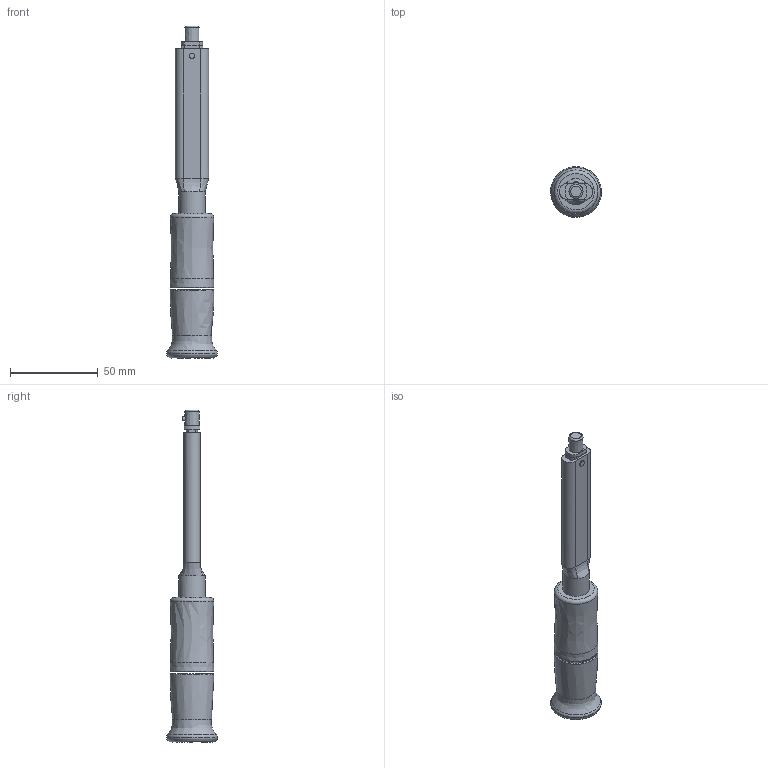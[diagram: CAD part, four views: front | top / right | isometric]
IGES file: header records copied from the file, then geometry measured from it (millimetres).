
Global section: file name: BCSP10Nx8D; native system: Autodesk Inventor 2021; preprocessor: unknown; author: Q532; date: 20201124.133545; units: millimetre
Bounding box: 29 x 29 x 189.5 mm (x, y, z)
Volume: 107970.5 mm3; surface area: 24948.5 mm2
Topology: 3 solids, 5 shells, 64 faces, 168 edges, 113 vertices
Faces by surface type: bspline 64
